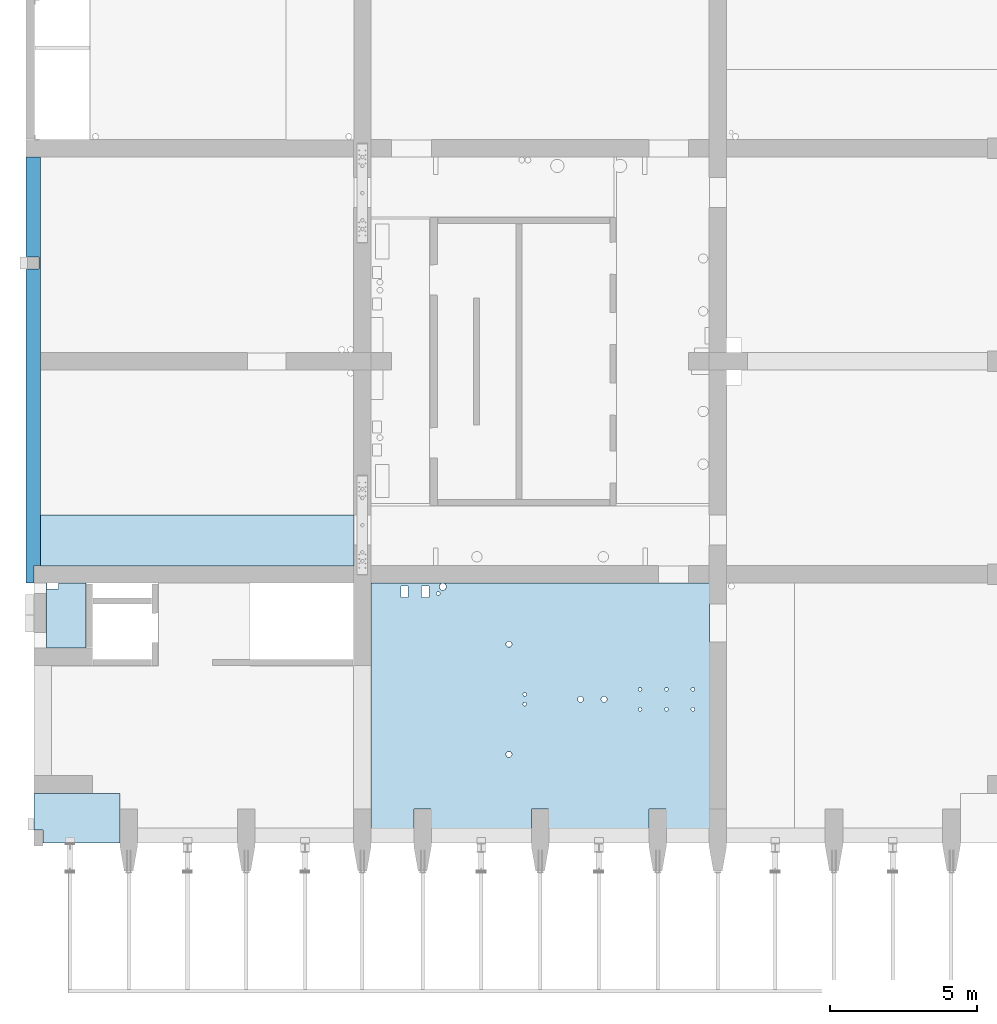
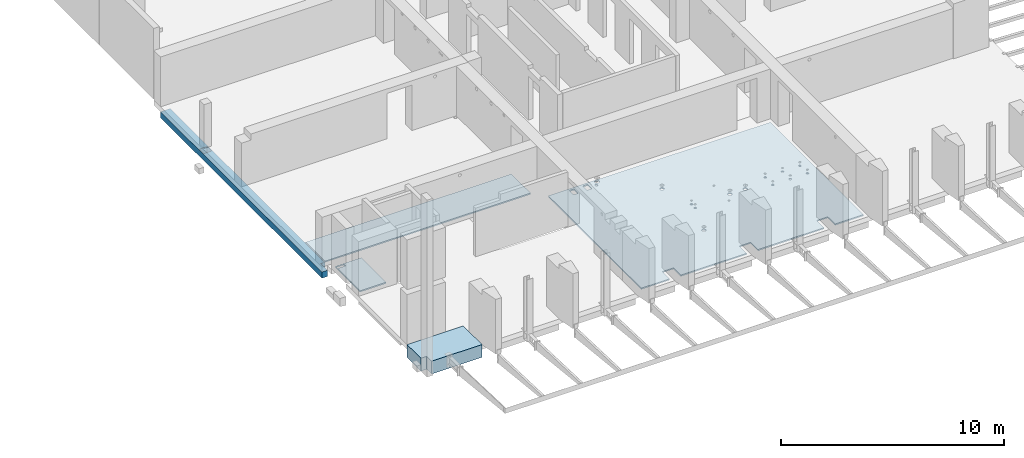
# One storey, part 16 of 27: 4 slabs, 1 beam, 54 openings.
"""IFC2X3 building model written with IfcOpenShell, lengths in millimetres."""

from ifc_helpers import new_model, entity, si_unit, converted_unit, derived_unit, direction, frame, frame_2d, origin, origin_2d_with_axis, place, context, subcontext, project, spatial, polyline, rectangle, circle, outline, extrude, faceted_brep, material, layer, layer_set, layer_usage, type_object, element, save


model = new_model("IFC2X3")

# Units and contexts
model_context = context("Model", 3, precision=0.01, world=origin(), true_north=direction((6.12303176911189e-17, 1.0)))
body_context = subcontext(model_context, "Body", "Model", "MODEL_VIEW")
ifc_project = project(units=[si_unit("LENGTHUNIT", "METRE", prefix="MILLI"), si_unit("AREAUNIT", "SQUARE_METRE"), si_unit("VOLUMEUNIT", "CUBIC_METRE"), converted_unit("PLANEANGLEUNIT", "DEGREE", entity("IfcRatioMeasure", 0.0174532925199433), si_unit("PLANEANGLEUNIT", "RADIAN"), dimensions=[0, 0, 0, 0, 0, 0, 0]), si_unit("MASSUNIT", "GRAM", prefix="KILO"), derived_unit("MASSDENSITYUNIT", [(si_unit("MASSUNIT", "GRAM", prefix="KILO"), 1), (si_unit("LENGTHUNIT", "METRE"), -3)]), si_unit("TIMEUNIT", "SECOND"), si_unit("FREQUENCYUNIT", "HERTZ"), si_unit("THERMODYNAMICTEMPERATUREUNIT", "DEGREE_CELSIUS"), derived_unit("THERMALTRANSMITTANCEUNIT", [(si_unit("MASSUNIT", "GRAM", prefix="KILO"), 1), (si_unit("THERMODYNAMICTEMPERATUREUNIT", "KELVIN"), -1), (si_unit("TIMEUNIT", "SECOND"), -3)]), derived_unit("VOLUMETRICFLOWRATEUNIT", [(si_unit("LENGTHUNIT", "METRE"), 3), (si_unit("TIMEUNIT", "SECOND"), -1)]), si_unit("ELECTRICCURRENTUNIT", "AMPERE"), si_unit("ELECTRICVOLTAGEUNIT", "VOLT"), si_unit("POWERUNIT", "WATT"), si_unit("FORCEUNIT", "NEWTON", prefix="KILO"), si_unit("ILLUMINANCEUNIT", "LUX"), si_unit("LUMINOUSFLUXUNIT", "LUMEN"), si_unit("LUMINOUSINTENSITYUNIT", "CANDELA"), derived_unit("USERDEFINED", [(si_unit("MASSUNIT", "GRAM", prefix="KILO"), -1), (si_unit("LENGTHUNIT", "METRE"), -2), (si_unit("TIMEUNIT", "SECOND"), 3), (si_unit("LUMINOUSFLUXUNIT", "LUMEN"), 1)]), derived_unit("LINEARVELOCITYUNIT", [(si_unit("LENGTHUNIT", "METRE"), 1), (si_unit("TIMEUNIT", "SECOND"), -1)]), si_unit("PRESSUREUNIT", "PASCAL"), derived_unit("USERDEFINED", [(si_unit("LENGTHUNIT", "METRE"), -2), (si_unit("MASSUNIT", "GRAM", prefix="KILO"), 1), (si_unit("TIMEUNIT", "SECOND"), -2)])], contexts=[model_context])

# Site, building, storey
site_placement = place(None, origin())
site = spatial("IfcSite", under=ifc_project, at=site_placement, Name="Default", CompositionType="ELEMENT")
building_placement = place(site_placement, origin())
building = spatial("IfcBuilding", under=site, at=building_placement, Name="niet gebruiken", CompositionType="ELEMENT")
storey_placement = place(building_placement, frame((0.0, 0.0, 6000.0)))
storey = spatial("IfcBuildingStorey", under=building, at=storey_placement, Name="01 eerste verdieping", CompositionType="ELEMENT", Elevation=6000.0)

# Beam
ifc_material_1 = material(Name="NLRS_f2_beton ihwg")
beam_type = type_object("IfcBeamType", Name="500x600", PredefinedType="BEAM", material=ifc_material_1)
beam_placement = place(storey_placement, frame((124250.0, 9950.0, -690.0), z_axis=(0.0, 0.0, 1.0), x_axis=(0.0, -1.0, 0.0)))
element("IfcBeam", 1, at=beam_placement, inside=storey, type_object=beam_type, material=ifc_material_1, Name="NLRS_28.11_SF_WPB_betonbalk ihwg recht_gen:500x600", ObjectType="NLRS_28.11_SF_WPB_betonbalk ihwg recht_gen:500x600", context=body_context, shape_type="Brep", body=[
    faceted_brep([(-14500.0, 500.0, 330.0), (-14500.0, 500.0, 0.0), (-14500.0, 0.0, 0.0), (-14500.0, 0.0, 330.0), (0.0, 0.0, 330.0), (0.0, 0.0, 0.0), (0.0, 280.0, 0.0), (0.0, 280.0, 330.0), (-7850.0, 500.0, 330.0), (-7250.0, 500.0, 330.0), (-600.0, 500.0, 330.0), (-600.0, 500.0, 0.0), (-7250.0, 500.0, 0.0), (-7850.0, 500.0, 0.0), (-600.0, 280.0, 0.0), (-11096.0, 50.0, 0.0), (-10696.0, 50.0, 0.0), (-10696.0, 450.0, 0.0), (-11096.0, 450.0, 0.0), (-10696.0, 50.0, 330.0), (-11096.0, 50.0, 330.0), (-11096.0, 450.0, 330.0), (-10696.0, 450.0, 330.0), (-600.0, 280.0, 330.0)], [[[0, 1, 2, 3]], [[4, 5, 6, 7]], [[1, 0, 8, 9, 10, 11, 12, 13]], [[2, 1, 13, 12, 11, 14, 6, 5], [15, 16, 17, 18]], [[3, 2, 5, 4]], [[19, 20, 21, 22], [0, 3, 4, 7, 23, 10, 9, 8]], [[23, 14, 11, 10]], [[14, 23, 7, 6]], [[15, 20, 19, 16]], [[17, 22, 21, 18]], [[22, 17, 16, 19]], [[20, 15, 18, 21]]], outer=[[True], [True], [True], [True, False], [True], [False, True], [True], [True], [True], [True], [True], [True]]),
])

# Slab
ifc_layer_1 = layer(ifc_material_1, 700.0)
ifc_layer_set_1 = layer_set([ifc_layer_1], Name="Floor:NLRS_23.21_FL_beton ihwg d=700_gen")
ifc_layer_usage_1 = layer_usage(ifc_layer_set_1, "AXIS3", "POSITIVE", 0.0)
slab_1_placement = place(storey_placement, origin())
element("IfcSlab", 2, at=slab_1_placement, inside=storey, material=ifc_layer_usage_1, Name="Floor:NLRS_23.21_FL_beton ihwg d=700_gen", ObjectType="Floor:NLRS_23.21_FL_beton ihwg d=700_gen", PredefinedType="FLOOR", context=body_context, shape_type="SweptSolid", body=[
    extrude(outline(polyline([(-271.333333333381, -1073.33333333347), (978.66666666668, -1073.33333333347), (978.66666666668, 1846.66666666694), (-707.333333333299, 1846.66666666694), (-707.333333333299, -773.333333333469), (-271.333333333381, -773.333333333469), (-271.333333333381, -1073.33333333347)])), frame((125603.333333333, 1821.33333333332, -90.0), z_axis=(0.0, 0.0, -1.0), x_axis=(0.0, 1.0, 0.0)), (0.0, 0.0, 1.0), 700.0),
])

# Slab, openings
ifc_material_2 = material(Name="NLRS_f2_beton prefab")
ifc_layer_2 = layer(ifc_material_2, 70.0)
ifc_layer_set_2 = layer_set([ifc_layer_2], Name="Floor:NLRS_23.21_FL_breedplaat d=70_gen")
ifc_layer_usage_2 = layer_usage(ifc_layer_set_2, "AXIS3", "POSITIVE", 0.0)
slab_2_placement = place(storey_placement, frame((124740.0, 1604.0, -360.0)))
slab_2 = element("IfcSlab", 3, at=slab_2_placement, inside=storey, material=ifc_layer_usage_2, Name="Floor:NLRS_23.21_FL_breedplaat d=70_gen:3", ObjectType="Floor:NLRS_23.21_FL_breedplaat d=70_gen", PredefinedType="FLOOR", context=body_context, shape_type="SweptSolid", body=[
    extrude(outline(polyline([(1580.0, -5331.0), (1580.0, 3025.0), (-9940.0, 3025.0), (-9940.0, -5331.0), (-8470.0, -5331.0), (-8470.0, -4675.0), (-7890.0, -4675.0), (-7890.0, -5331.0), (-4470.0, -5331.0), (-4470.0, -4675.0), (-3890.0, -4675.0), (-3890.0, -5331.0), (-470.0, -5331.0), (-470.0, -4675.0), (110.0, -4675.0), (110.0, -5331.0), (1580.0, -5331.0)])), frame((12830.0, 5331.0, 70.0), z_axis=(0.0, 0.0, -1.0), x_axis=(-1.0, 0.0, 0.0)), (0.0, 0.0, 1.0), 70.0000000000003),
])
placement_1 = place(storey_placement, frame((124740.0, 1604.0, -360.0)))
placement_2 = place(placement_1, origin())
element("IfcOpeningElement", 4, at=placement_2, cuts=slab_2, ObjectType="Opening", context=body_context, shape_type="SweptSolid", body=[
    extrude(rectangle(XDim=190.000000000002, YDim=400.000000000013, at=origin_2d_with_axis()), frame((425.0, 8251.0, 0.0), z_axis=(0.0, 0.0, 1.0), x_axis=(0.0, -1.0, 0.0)), (0.0, 0.0, 1.0), 270.0),
])
placement_3 = place(placement_1, origin())
element("IfcOpeningElement", 5, at=placement_3, cuts=slab_2, ObjectType="Opening", context=body_context, shape_type="SweptSolid", body=[
    extrude(circle(Radius=100.0, at=origin_2d_with_axis()), frame((23520.0, 8246.0, 0.0), z_axis=(0.0, 0.0, 1.0), x_axis=(0.0, -1.0, 0.0)), (0.0, 0.0, 1.0), 270.0),
])
placement_4 = place(placement_1, origin())
element("IfcOpeningElement", 6, at=placement_4, cuts=slab_2, ObjectType="Opening", context=body_context, shape_type="SweptSolid", body=[
    extrude(rectangle(XDim=249.999999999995, YDim=380.000000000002, at=origin_2d_with_axis()), frame((12395.0, 8056.0, 0.0), z_axis=(0.0, 0.0, 1.0), x_axis=(-1.0, 0.0, 0.0)), (0.0, 0.0, 1.0), 270.0),
])
placement_5 = place(placement_1, origin())
element("IfcOpeningElement", 7, at=placement_5, cuts=slab_2, ObjectType="Opening", context=body_context, shape_type="SweptSolid", body=[
    extrude(circle(Radius=62.5, at=origin_2d_with_axis()), frame((13540.0, 7996.0, 0.0)), (0.0, 0.0, 1.0), 270.0),
])
placement_6 = place(placement_1, origin())
element("IfcOpeningElement", 8, at=placement_6, cuts=slab_2, ObjectType="Opening", context=body_context, shape_type="SweptSolid", body=[
    extrude(circle(Radius=120.0, at=origin_2d_with_axis()), frame((13700.0, 8226.0, 0.0)), (0.0, 0.0, 1.0), 270.0),
])
placement_7 = place(placement_1, origin())
element("IfcOpeningElement", 9, at=placement_7, cuts=slab_2, ObjectType="Opening", context=body_context, shape_type="SweptSolid", body=[
    extrude(rectangle(XDim=249.999999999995, YDim=380.000000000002, at=origin_2d_with_axis()), frame((13105.0, 8056.0, 0.0), z_axis=(0.0, 0.0, 1.0), x_axis=(-1.0, 0.0, 0.0)), (0.0, 0.0, 1.0), 270.0),
])
placement_8 = place(placement_1, origin())
element("IfcOpeningElement", 10, at=placement_8, cuts=slab_2, ObjectType="Opening", context=body_context, shape_type="SweptSolid", body=[
    extrude(circle(Radius=100.0, at=origin_2d_with_axis()), frame((15950.0, 6271.0, 0.0), z_axis=(0.0, 0.0, 1.0), x_axis=(-1.0, 0.0, 0.0)), (0.0, 0.0, 1.0), 270.0),
])
placement_9 = place(placement_1, origin())
element("IfcOpeningElement", 11, at=placement_9, cuts=slab_2, ObjectType="Opening", context=body_context, shape_type="SweptSolid", body=[
    extrude(circle(Radius=100.0, at=origin_2d_with_axis()), frame((15950.0, 2521.0, 0.0), z_axis=(0.0, 0.0, 1.0), x_axis=(-1.0, 0.0, 0.0)), (0.0, 0.0, 1.0), 270.0),
])
placement_10 = place(placement_1, origin())
element("IfcOpeningElement", 12, at=placement_10, cuts=slab_2, ObjectType="Opening", context=body_context, shape_type="SweptSolid", body=[
    extrude(circle(Radius=100.0, at=origin_2d_with_axis()), frame((19185.0, 4396.0, 0.0), z_axis=(0.0, 0.0, 1.0), x_axis=(-1.0, 0.0, 0.0)), (0.0, 0.0, 1.0), 270.0),
])
placement_11 = place(placement_1, origin())
element("IfcOpeningElement", 13, at=placement_11, cuts=slab_2, ObjectType="Opening", context=body_context, shape_type="SweptSolid", body=[
    extrude(circle(Radius=100.0, at=origin_2d_with_axis()), frame((18385.0, 4396.0, 0.0), z_axis=(0.0, 0.0, 1.0), x_axis=(-1.0, 0.0, 0.0)), (0.0, 0.0, 1.0), 270.0),
])
placement_12 = place(placement_1, origin())
element("IfcOpeningElement", 14, at=placement_12, cuts=slab_2, ObjectType="Opening", context=body_context, shape_type="SweptSolid", body=[
    extrude(circle(Radius=60.0, at=origin_2d_with_axis()), frame((22210.0, 4736.0, 0.0), z_axis=(0.0, 0.0, 1.0), x_axis=(-1.0, 0.0, 0.0)), (0.0, 0.0, 1.0), 270.0),
])
placement_13 = place(placement_1, origin())
element("IfcOpeningElement", 15, at=placement_13, cuts=slab_2, ObjectType="Opening", context=body_context, shape_type="SweptSolid", body=[
    extrude(circle(Radius=60.0, at=origin_2d_with_axis()), frame((21310.0, 4736.0, 0.0), z_axis=(0.0, 0.0, 1.0), x_axis=(-1.0, 0.0, 0.0)), (0.0, 0.0, 1.0), 270.0),
])
placement_14 = place(placement_1, origin())
element("IfcOpeningElement", 16, at=placement_14, cuts=slab_2, ObjectType="Opening", context=body_context, shape_type="SweptSolid", body=[
    extrude(circle(Radius=60.0, at=origin_2d_with_axis()), frame((20410.0, 4736.0, 0.0), z_axis=(0.0, 0.0, 1.0), x_axis=(-1.0, 0.0, 0.0)), (0.0, 0.0, 1.0), 270.0),
])
placement_15 = place(placement_1, origin())
element("IfcOpeningElement", 17, at=placement_15, cuts=slab_2, ObjectType="Opening", context=body_context, shape_type="SweptSolid", body=[
    extrude(circle(Radius=60.0, at=origin_2d_with_axis()), frame((16490.0, 4231.0, 0.0), z_axis=(0.0, 0.0, 1.0), x_axis=(-1.0, 0.0, 0.0)), (0.0, 0.0, 1.0), 270.0),
])
placement_16 = place(placement_1, origin())
element("IfcOpeningElement", 18, at=placement_16, cuts=slab_2, ObjectType="Opening", context=body_context, shape_type="SweptSolid", body=[
    extrude(circle(Radius=60.0, at=origin_2d_with_axis()), frame((16490.0, 4561.0, 0.0), z_axis=(0.0, 0.0, 1.0), x_axis=(-1.0, 0.0, 0.0)), (0.0, 0.0, 1.0), 270.0),
])
placement_17 = place(placement_1, origin())
element("IfcOpeningElement", 19, at=placement_17, cuts=slab_2, ObjectType="Opening", context=body_context, shape_type="SweptSolid", body=[
    extrude(circle(Radius=60.0, at=origin_2d_with_axis()), frame((21310.0, 4056.0, 0.0), z_axis=(0.0, 0.0, 1.0), x_axis=(-1.0, 0.0, 0.0)), (0.0, 0.0, 1.0), 270.0),
])
placement_18 = place(placement_1, origin())
element("IfcOpeningElement", 20, at=placement_18, cuts=slab_2, ObjectType="Opening", context=body_context, shape_type="SweptSolid", body=[
    extrude(circle(Radius=60.0, at=origin_2d_with_axis()), frame((20410.0, 4056.0, 0.0), z_axis=(0.0, 0.0, 1.0), x_axis=(-1.0, 0.0, 0.0)), (0.0, 0.0, 1.0), 270.0),
])
placement_19 = place(placement_1, origin())
element("IfcOpeningElement", 21, at=placement_19, cuts=slab_2, ObjectType="Opening", context=body_context, shape_type="SweptSolid", body=[
    extrude(circle(Radius=60.0, at=origin_2d_with_axis()), frame((22210.0, 4056.0, 0.0), z_axis=(0.0, 0.0, 1.0), x_axis=(-1.0, 0.0, 0.0)), (0.0, 0.0, 1.0), 270.0),
])

slab_3_placement = place(storey_placement, frame((124740.0, 1604.0, -360.0)))
slab_3 = element("IfcSlab", 22, at=slab_3_placement, inside=storey, material=ifc_layer_usage_2, Name="Floor:NLRS_23.21_FL_breedplaat d=70_gen:4", ObjectType="Floor:NLRS_23.21_FL_breedplaat d=70_gen", PredefinedType="FLOOR", context=body_context, shape_type="SweptSolid", body=[
    extrude(rectangle(XDim=10669.9999999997, YDim=1725.99999999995, at=frame_2d((7495.0, 4468.0), x_axis=(-1.0, 0.0))), frame((12830.0, 5331.0, 70.0), z_axis=(0.0, 0.0, -1.0), x_axis=(-1.0, 0.0, 0.0)), (0.0, 0.0, 1.0), 70.0000000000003),
])
element("IfcOpeningElement", 23, at=placement_2, cuts=slab_3, ObjectType="Opening", context=body_context, shape_type="SweptSolid", body=[
    extrude(rectangle(XDim=190.000000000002, YDim=400.000000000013, at=origin_2d_with_axis()), frame((425.0, 8251.0, 0.0), z_axis=(0.0, 0.0, 1.0), x_axis=(0.0, -1.0, 0.0)), (0.0, 0.0, 1.0), 270.0),
])
element("IfcOpeningElement", 24, at=placement_3, cuts=slab_3, ObjectType="Opening", context=body_context, shape_type="SweptSolid", body=[
    extrude(circle(Radius=100.0, at=origin_2d_with_axis()), frame((23520.0, 8246.0, 0.0), z_axis=(0.0, 0.0, 1.0), x_axis=(0.0, -1.0, 0.0)), (0.0, 0.0, 1.0), 270.0),
])
element("IfcOpeningElement", 25, at=placement_4, cuts=slab_3, ObjectType="Opening", context=body_context, shape_type="SweptSolid", body=[
    extrude(rectangle(XDim=249.999999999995, YDim=380.000000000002, at=origin_2d_with_axis()), frame((12395.0, 8056.0, 0.0), z_axis=(0.0, 0.0, 1.0), x_axis=(-1.0, 0.0, 0.0)), (0.0, 0.0, 1.0), 270.0),
])
element("IfcOpeningElement", 26, at=placement_5, cuts=slab_3, ObjectType="Opening", context=body_context, shape_type="SweptSolid", body=[
    extrude(circle(Radius=62.5, at=origin_2d_with_axis()), frame((13540.0, 7996.0, 0.0)), (0.0, 0.0, 1.0), 270.0),
])
element("IfcOpeningElement", 27, at=placement_6, cuts=slab_3, ObjectType="Opening", context=body_context, shape_type="SweptSolid", body=[
    extrude(circle(Radius=120.0, at=origin_2d_with_axis()), frame((13700.0, 8226.0, 0.0)), (0.0, 0.0, 1.0), 270.0),
])
element("IfcOpeningElement", 28, at=placement_7, cuts=slab_3, ObjectType="Opening", context=body_context, shape_type="SweptSolid", body=[
    extrude(rectangle(XDim=249.999999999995, YDim=380.000000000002, at=origin_2d_with_axis()), frame((13105.0, 8056.0, 0.0), z_axis=(0.0, 0.0, 1.0), x_axis=(-1.0, 0.0, 0.0)), (0.0, 0.0, 1.0), 270.0),
])
element("IfcOpeningElement", 29, at=placement_8, cuts=slab_3, ObjectType="Opening", context=body_context, shape_type="SweptSolid", body=[
    extrude(circle(Radius=100.0, at=origin_2d_with_axis()), frame((15950.0, 6271.0, 0.0), z_axis=(0.0, 0.0, 1.0), x_axis=(-1.0, 0.0, 0.0)), (0.0, 0.0, 1.0), 270.0),
])
element("IfcOpeningElement", 30, at=placement_9, cuts=slab_3, ObjectType="Opening", context=body_context, shape_type="SweptSolid", body=[
    extrude(circle(Radius=100.0, at=origin_2d_with_axis()), frame((15950.0, 2521.0, 0.0), z_axis=(0.0, 0.0, 1.0), x_axis=(-1.0, 0.0, 0.0)), (0.0, 0.0, 1.0), 270.0),
])
element("IfcOpeningElement", 31, at=placement_10, cuts=slab_3, ObjectType="Opening", context=body_context, shape_type="SweptSolid", body=[
    extrude(circle(Radius=100.0, at=origin_2d_with_axis()), frame((19185.0, 4396.0, 0.0), z_axis=(0.0, 0.0, 1.0), x_axis=(-1.0, 0.0, 0.0)), (0.0, 0.0, 1.0), 270.0),
])
element("IfcOpeningElement", 32, at=placement_11, cuts=slab_3, ObjectType="Opening", context=body_context, shape_type="SweptSolid", body=[
    extrude(circle(Radius=100.0, at=origin_2d_with_axis()), frame((18385.0, 4396.0, 0.0), z_axis=(0.0, 0.0, 1.0), x_axis=(-1.0, 0.0, 0.0)), (0.0, 0.0, 1.0), 270.0),
])
element("IfcOpeningElement", 33, at=placement_12, cuts=slab_3, ObjectType="Opening", context=body_context, shape_type="SweptSolid", body=[
    extrude(circle(Radius=60.0, at=origin_2d_with_axis()), frame((22210.0, 4736.0, 0.0), z_axis=(0.0, 0.0, 1.0), x_axis=(-1.0, 0.0, 0.0)), (0.0, 0.0, 1.0), 270.0),
])
element("IfcOpeningElement", 34, at=placement_13, cuts=slab_3, ObjectType="Opening", context=body_context, shape_type="SweptSolid", body=[
    extrude(circle(Radius=60.0, at=origin_2d_with_axis()), frame((21310.0, 4736.0, 0.0), z_axis=(0.0, 0.0, 1.0), x_axis=(-1.0, 0.0, 0.0)), (0.0, 0.0, 1.0), 270.0),
])
element("IfcOpeningElement", 35, at=placement_14, cuts=slab_3, ObjectType="Opening", context=body_context, shape_type="SweptSolid", body=[
    extrude(circle(Radius=60.0, at=origin_2d_with_axis()), frame((20410.0, 4736.0, 0.0), z_axis=(0.0, 0.0, 1.0), x_axis=(-1.0, 0.0, 0.0)), (0.0, 0.0, 1.0), 270.0),
])
element("IfcOpeningElement", 36, at=placement_15, cuts=slab_3, ObjectType="Opening", context=body_context, shape_type="SweptSolid", body=[
    extrude(circle(Radius=60.0, at=origin_2d_with_axis()), frame((16490.0, 4231.0, 0.0), z_axis=(0.0, 0.0, 1.0), x_axis=(-1.0, 0.0, 0.0)), (0.0, 0.0, 1.0), 270.0),
])
element("IfcOpeningElement", 37, at=placement_16, cuts=slab_3, ObjectType="Opening", context=body_context, shape_type="SweptSolid", body=[
    extrude(circle(Radius=60.0, at=origin_2d_with_axis()), frame((16490.0, 4561.0, 0.0), z_axis=(0.0, 0.0, 1.0), x_axis=(-1.0, 0.0, 0.0)), (0.0, 0.0, 1.0), 270.0),
])
element("IfcOpeningElement", 38, at=placement_17, cuts=slab_3, ObjectType="Opening", context=body_context, shape_type="SweptSolid", body=[
    extrude(circle(Radius=60.0, at=origin_2d_with_axis()), frame((21310.0, 4056.0, 0.0), z_axis=(0.0, 0.0, 1.0), x_axis=(-1.0, 0.0, 0.0)), (0.0, 0.0, 1.0), 270.0),
])
element("IfcOpeningElement", 39, at=placement_18, cuts=slab_3, ObjectType="Opening", context=body_context, shape_type="SweptSolid", body=[
    extrude(circle(Radius=60.0, at=origin_2d_with_axis()), frame((20410.0, 4056.0, 0.0), z_axis=(0.0, 0.0, 1.0), x_axis=(-1.0, 0.0, 0.0)), (0.0, 0.0, 1.0), 270.0),
])
element("IfcOpeningElement", 40, at=placement_19, cuts=slab_3, ObjectType="Opening", context=body_context, shape_type="SweptSolid", body=[
    extrude(circle(Radius=60.0, at=origin_2d_with_axis()), frame((22210.0, 4056.0, 0.0), z_axis=(0.0, 0.0, 1.0), x_axis=(-1.0, 0.0, 0.0)), (0.0, 0.0, 1.0), 270.0),
])

slab_4_placement = place(storey_placement, frame((124740.0, 1604.0, -360.0)))
slab_4 = element("IfcSlab", 41, at=slab_4_placement, inside=storey, material=ifc_layer_usage_2, Name="Floor:NLRS_23.21_FL_breedplaat d=70_gen:5", ObjectType="Floor:NLRS_23.21_FL_breedplaat d=70_gen", PredefinedType="FLOOR", context=body_context, shape_type="SweptSolid", body=[
    extrude(rectangle(XDim=2220.0, YDim=1350.00000000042, at=frame_2d((11945.0, 1915.0), x_axis=(0.0, -1.0))), frame((12830.0, 5331.0, 70.0), z_axis=(0.0, 0.0, -1.0), x_axis=(-1.0, 0.0, 0.0)), (0.0, 0.0, 1.0), 70.0000000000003),
])
element("IfcOpeningElement", 42, at=placement_2, cuts=slab_4, ObjectType="Opening", context=body_context, shape_type="SweptSolid", body=[
    extrude(rectangle(XDim=190.000000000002, YDim=400.000000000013, at=origin_2d_with_axis()), frame((425.0, 8251.0, 0.0), z_axis=(0.0, 0.0, 1.0), x_axis=(0.0, -1.0, 0.0)), (0.0, 0.0, 1.0), 270.0),
])
element("IfcOpeningElement", 43, at=placement_3, cuts=slab_4, ObjectType="Opening", context=body_context, shape_type="SweptSolid", body=[
    extrude(circle(Radius=100.0, at=origin_2d_with_axis()), frame((23520.0, 8246.0, 0.0), z_axis=(0.0, 0.0, 1.0), x_axis=(0.0, -1.0, 0.0)), (0.0, 0.0, 1.0), 270.0),
])
element("IfcOpeningElement", 44, at=placement_4, cuts=slab_4, ObjectType="Opening", context=body_context, shape_type="SweptSolid", body=[
    extrude(rectangle(XDim=249.999999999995, YDim=380.000000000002, at=origin_2d_with_axis()), frame((12395.0, 8056.0, 0.0), z_axis=(0.0, 0.0, 1.0), x_axis=(-1.0, 0.0, 0.0)), (0.0, 0.0, 1.0), 270.0),
])
element("IfcOpeningElement", 45, at=placement_5, cuts=slab_4, ObjectType="Opening", context=body_context, shape_type="SweptSolid", body=[
    extrude(circle(Radius=62.5, at=origin_2d_with_axis()), frame((13540.0, 7996.0, 0.0)), (0.0, 0.0, 1.0), 270.0),
])
element("IfcOpeningElement", 46, at=placement_6, cuts=slab_4, ObjectType="Opening", context=body_context, shape_type="SweptSolid", body=[
    extrude(circle(Radius=120.0, at=origin_2d_with_axis()), frame((13700.0, 8226.0, 0.0)), (0.0, 0.0, 1.0), 270.0),
])
element("IfcOpeningElement", 47, at=placement_7, cuts=slab_4, ObjectType="Opening", context=body_context, shape_type="SweptSolid", body=[
    extrude(rectangle(XDim=249.999999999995, YDim=380.000000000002, at=origin_2d_with_axis()), frame((13105.0, 8056.0, 0.0), z_axis=(0.0, 0.0, 1.0), x_axis=(-1.0, 0.0, 0.0)), (0.0, 0.0, 1.0), 270.0),
])
element("IfcOpeningElement", 48, at=placement_8, cuts=slab_4, ObjectType="Opening", context=body_context, shape_type="SweptSolid", body=[
    extrude(circle(Radius=100.0, at=origin_2d_with_axis()), frame((15950.0, 6271.0, 0.0), z_axis=(0.0, 0.0, 1.0), x_axis=(-1.0, 0.0, 0.0)), (0.0, 0.0, 1.0), 270.0),
])
element("IfcOpeningElement", 49, at=placement_9, cuts=slab_4, ObjectType="Opening", context=body_context, shape_type="SweptSolid", body=[
    extrude(circle(Radius=100.0, at=origin_2d_with_axis()), frame((15950.0, 2521.0, 0.0), z_axis=(0.0, 0.0, 1.0), x_axis=(-1.0, 0.0, 0.0)), (0.0, 0.0, 1.0), 270.0),
])
element("IfcOpeningElement", 50, at=placement_10, cuts=slab_4, ObjectType="Opening", context=body_context, shape_type="SweptSolid", body=[
    extrude(circle(Radius=100.0, at=origin_2d_with_axis()), frame((19185.0, 4396.0, 0.0), z_axis=(0.0, 0.0, 1.0), x_axis=(-1.0, 0.0, 0.0)), (0.0, 0.0, 1.0), 270.0),
])
element("IfcOpeningElement", 51, at=placement_11, cuts=slab_4, ObjectType="Opening", context=body_context, shape_type="SweptSolid", body=[
    extrude(circle(Radius=100.0, at=origin_2d_with_axis()), frame((18385.0, 4396.0, 0.0), z_axis=(0.0, 0.0, 1.0), x_axis=(-1.0, 0.0, 0.0)), (0.0, 0.0, 1.0), 270.0),
])
element("IfcOpeningElement", 52, at=placement_12, cuts=slab_4, ObjectType="Opening", context=body_context, shape_type="SweptSolid", body=[
    extrude(circle(Radius=60.0, at=origin_2d_with_axis()), frame((22210.0, 4736.0, 0.0), z_axis=(0.0, 0.0, 1.0), x_axis=(-1.0, 0.0, 0.0)), (0.0, 0.0, 1.0), 270.0),
])
element("IfcOpeningElement", 53, at=placement_13, cuts=slab_4, ObjectType="Opening", context=body_context, shape_type="SweptSolid", body=[
    extrude(circle(Radius=60.0, at=origin_2d_with_axis()), frame((21310.0, 4736.0, 0.0), z_axis=(0.0, 0.0, 1.0), x_axis=(-1.0, 0.0, 0.0)), (0.0, 0.0, 1.0), 270.0),
])
element("IfcOpeningElement", 54, at=placement_14, cuts=slab_4, ObjectType="Opening", context=body_context, shape_type="SweptSolid", body=[
    extrude(circle(Radius=60.0, at=origin_2d_with_axis()), frame((20410.0, 4736.0, 0.0), z_axis=(0.0, 0.0, 1.0), x_axis=(-1.0, 0.0, 0.0)), (0.0, 0.0, 1.0), 270.0),
])
element("IfcOpeningElement", 55, at=placement_15, cuts=slab_4, ObjectType="Opening", context=body_context, shape_type="SweptSolid", body=[
    extrude(circle(Radius=60.0, at=origin_2d_with_axis()), frame((16490.0, 4231.0, 0.0), z_axis=(0.0, 0.0, 1.0), x_axis=(-1.0, 0.0, 0.0)), (0.0, 0.0, 1.0), 270.0),
])
element("IfcOpeningElement", 56, at=placement_16, cuts=slab_4, ObjectType="Opening", context=body_context, shape_type="SweptSolid", body=[
    extrude(circle(Radius=60.0, at=origin_2d_with_axis()), frame((16490.0, 4561.0, 0.0), z_axis=(0.0, 0.0, 1.0), x_axis=(-1.0, 0.0, 0.0)), (0.0, 0.0, 1.0), 270.0),
])
element("IfcOpeningElement", 57, at=placement_17, cuts=slab_4, ObjectType="Opening", context=body_context, shape_type="SweptSolid", body=[
    extrude(circle(Radius=60.0, at=origin_2d_with_axis()), frame((21310.0, 4056.0, 0.0), z_axis=(0.0, 0.0, 1.0), x_axis=(-1.0, 0.0, 0.0)), (0.0, 0.0, 1.0), 270.0),
])
element("IfcOpeningElement", 58, at=placement_18, cuts=slab_4, ObjectType="Opening", context=body_context, shape_type="SweptSolid", body=[
    extrude(circle(Radius=60.0, at=origin_2d_with_axis()), frame((20410.0, 4056.0, 0.0), z_axis=(0.0, 0.0, 1.0), x_axis=(-1.0, 0.0, 0.0)), (0.0, 0.0, 1.0), 270.0),
])
element("IfcOpeningElement", 59, at=placement_19, cuts=slab_4, ObjectType="Opening", context=body_context, shape_type="SweptSolid", body=[
    extrude(circle(Radius=60.0, at=origin_2d_with_axis()), frame((22210.0, 4056.0, 0.0), z_axis=(0.0, 0.0, 1.0), x_axis=(-1.0, 0.0, 0.0)), (0.0, 0.0, 1.0), 270.0),
])

save(model, "model.ifc")
